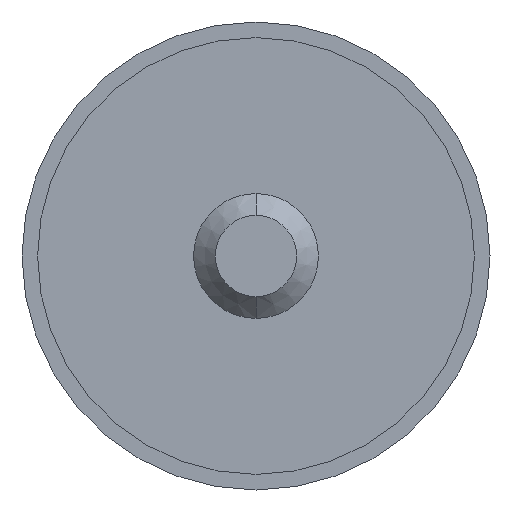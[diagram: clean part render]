
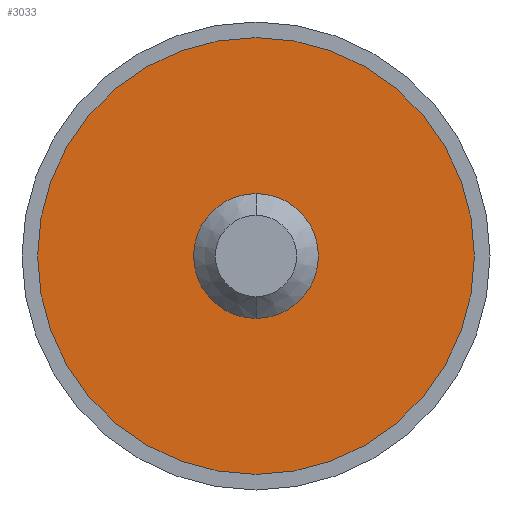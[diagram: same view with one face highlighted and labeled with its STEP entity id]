
A CAD part, front view. The second image highlights one B-rep face of the part: STEP entity #3033.
In plain terms, the highlighted planar face has unit normal (0, -1, 0).
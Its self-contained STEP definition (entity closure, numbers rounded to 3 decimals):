
#6 = ORIENTED_EDGE ( 'NONE', *, *, #1772, .F. ) ;
#335 = EDGE_LOOP ( 'NONE', ( #1530, #6 ) ) ;
#430 = CIRCLE ( 'NONE', #2465, 2. ) ;
#495 = CIRCLE ( 'NONE', #4296, 2. ) ;
#607 = AXIS2_PLACEMENT_3D ( 'NONE', #3432, #4512, #2350 ) ;
#856 = CARTESIAN_POINT ( 'NONE',  ( 0., -1., -7. ) ) ;
#951 = CARTESIAN_POINT ( 'NONE',  ( 0., -1., 0. ) ) ;
#1231 = DIRECTION ( 'NONE',  ( 0., 0., -1. ) ) ;
#1394 = VERTEX_POINT ( 'NONE', #2644 ) ;
#1475 = CARTESIAN_POINT ( 'NONE',  ( 0., -1., 0. ) ) ;
#1487 = DIRECTION ( 'NONE',  ( 0., 0., 1. ) ) ;
#1530 = ORIENTED_EDGE ( 'NONE', *, *, #2628, .F. ) ;
#1567 = DIRECTION ( 'NONE',  ( 0., -1., 0. ) ) ;
#1655 = DIRECTION ( 'NONE',  ( 0., -1., 0. ) ) ;
#1772 = EDGE_CURVE ( 'NONE', #3764, #3683, #3796, .T. ) ;
#2020 = CARTESIAN_POINT ( 'NONE',  ( 0., -1., 0. ) ) ;
#2057 = DIRECTION ( 'NONE',  ( 0., 1., 0. ) ) ;
#2350 = DIRECTION ( 'NONE',  ( 0., 0., 1. ) ) ;
#2411 = FACE_BOUND ( 'NONE', #4094, .T. ) ;
#2465 = AXIS2_PLACEMENT_3D ( 'NONE', #3417, #1567, #1231 ) ;
#2477 = EDGE_CURVE ( 'NONE', #3564, #1394, #495, .T. ) ;
#2521 = CARTESIAN_POINT ( 'NONE',  ( 0., -1., 2. ) ) ;
#2577 = FACE_OUTER_BOUND ( 'NONE', #335, .T. ) ;
#2628 = EDGE_CURVE ( 'NONE', #3683, #3764, #2806, .T. ) ;
#2644 = CARTESIAN_POINT ( 'NONE',  ( 0., -1., -2. ) ) ;
#2759 = ORIENTED_EDGE ( 'NONE', *, *, #2477, .F. ) ;
#2806 = CIRCLE ( 'NONE', #4673, 7. ) ;
#2934 = CARTESIAN_POINT ( 'NONE',  ( 0., -1., 7. ) ) ;
#2964 = EDGE_CURVE ( 'NONE', #1394, #3564, #430, .T. ) ;
#3033 = ADVANCED_FACE ( 'NONE', ( #2411, #2577 ), #3365, .F. ) ;
#3365 = PLANE ( 'NONE',  #607 ) ;
#3417 = CARTESIAN_POINT ( 'NONE',  ( 0., -1., 0. ) ) ;
#3424 = DIRECTION ( 'NONE',  ( 0., 0., -1. ) ) ;
#3432 = CARTESIAN_POINT ( 'NONE',  ( 0., -1., 0. ) ) ;
#3478 = AXIS2_PLACEMENT_3D ( 'NONE', #1475, #4033, #1487 ) ;
#3564 = VERTEX_POINT ( 'NONE', #2521 ) ;
#3683 = VERTEX_POINT ( 'NONE', #2934 ) ;
#3764 = VERTEX_POINT ( 'NONE', #856 ) ;
#3796 = CIRCLE ( 'NONE', #3478, 7. ) ;
#3931 = ORIENTED_EDGE ( 'NONE', *, *, #2964, .F. ) ;
#4033 = DIRECTION ( 'NONE',  ( 0., 1., 0. ) ) ;
#4094 = EDGE_LOOP ( 'NONE', ( #2759, #3931 ) ) ;
#4296 = AXIS2_PLACEMENT_3D ( 'NONE', #2020, #1655, #3424 ) ;
#4512 = DIRECTION ( 'NONE',  ( 0., 1., 0. ) ) ;
#4609 = DIRECTION ( 'NONE',  ( 0., 0., 1. ) ) ;
#4673 = AXIS2_PLACEMENT_3D ( 'NONE', #951, #2057, #4609 ) ;
